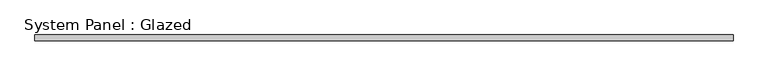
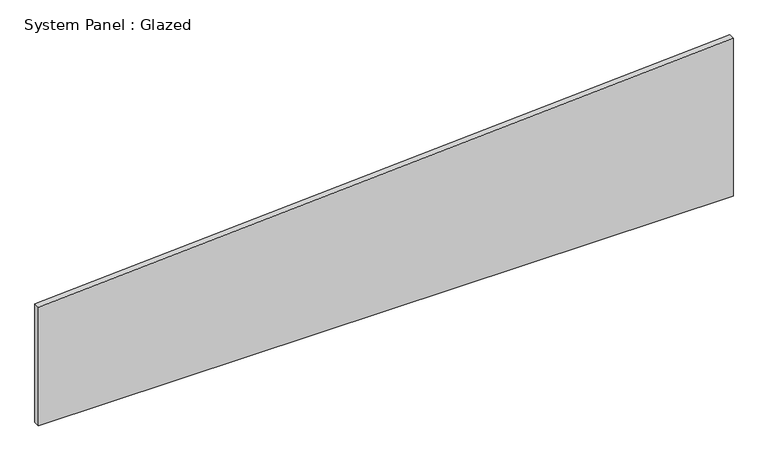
"""IFC4 building model written with IfcOpenShell, lengths in millimetres: plate geometry, System Panel : Glazed."""

from ifc_helpers import new_model, si_unit, frame, origin, place, context, project, spatial, polyline, outline, extrude, source, transform, mapped, element, save


def system_panel_glazed_ea386904(model_context):
    return source(origin(), model_context, "Body", "SweptSolid", [
        extrude(outline(polyline([(0.0, -1504.95), (0.0, 1504.95), (723.0018654, 1504.95), (542.7453634, -1504.95), (0.0, -1504.95)])), frame((0.0, 19.05, 0.0), z_axis=(0.0, 1.0, 0.0), x_axis=(0.0, 0.0, 1.0)), (0.0, 0.0, 1.0), 25.4),
    ])


if __name__ == "__main__":
    model = new_model("IFC4")
    model_context = context("Model", 3, world=origin())
    ifc_project = project(units=[si_unit("LENGTHUNIT", "METRE", prefix="MILLI")], contexts=[model_context])
    site = spatial("IfcSite", under=ifc_project)
    building = spatial("IfcBuilding", under=site)
    placement = place(None, origin())
    system_panel_glazed_shape = system_panel_glazed_ea386904(model_context)
    element("IfcPlate", 1, ObjectType="System Panel : Glazed", at=placement, inside=building, context=model_context, shape_type="MappedRepresentation", body=[
        mapped(system_panel_glazed_shape, transform((0.0, 0.0, 0.0), x_axis=(1.0, 0.0, 0.0), y_axis=(0.0, 1.0, 0.0), z_axis=(0.0, 0.0, 1.0))),
    ])
    save(model, "model.ifc")
